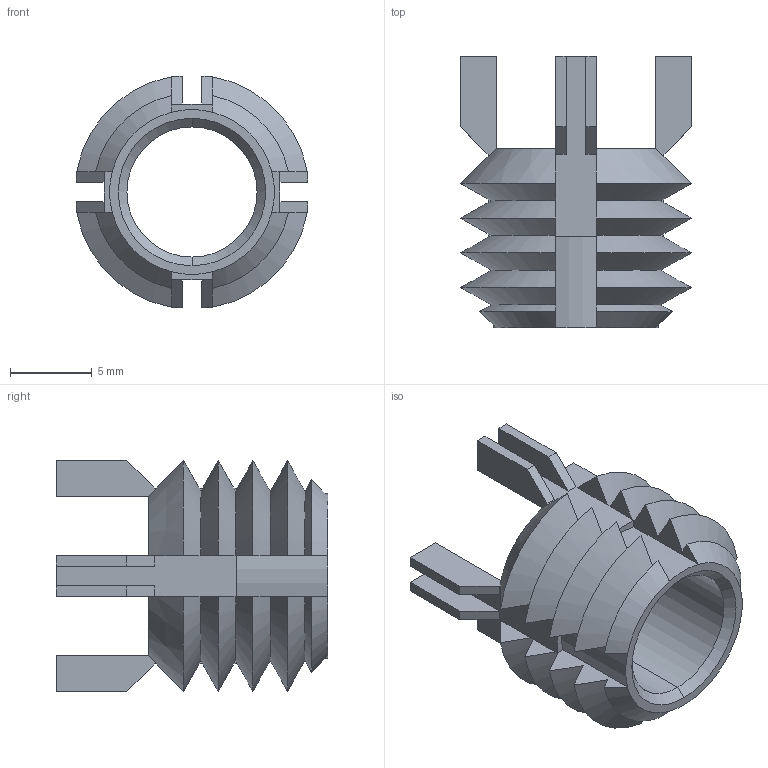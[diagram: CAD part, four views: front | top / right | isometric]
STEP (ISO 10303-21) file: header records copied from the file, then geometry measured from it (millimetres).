
FILE_DESCRIPTION (( 'STEP AP203' ), '1' );
FILE_NAME ('22024.W5351.step', '2020-01-04T21:56:29', ( '' ), ( '' ), 'SwSTEP 2.0', 'SolidWorks 2017', '' );
FILE_SCHEMA (( 'CONFIG_CONTROL_DESIGN' ));
Length unit declared in the file: millimetre
Products named in the file (1): 22024.W5351
Bounding box: 14.14 x 16.57 x 14.14 mm (x, y, z)
Volume: 721.2 mm3; surface area: 1372.1 mm2
Topology: 1 solids, 1 shells, 140 faces, 354 edges, 216 vertices
Faces by surface type: plane 90, cone 44, cylinder 6
Entity records: 4299 total; most frequent: CARTESIAN_POINT 1071, ORIENTED_EDGE 708, DIRECTION 576, EDGE_CURVE 354, VERTEX_POINT 216, AXIS2_PLACEMENT_3D 201, VECTOR 174, LINE 174
